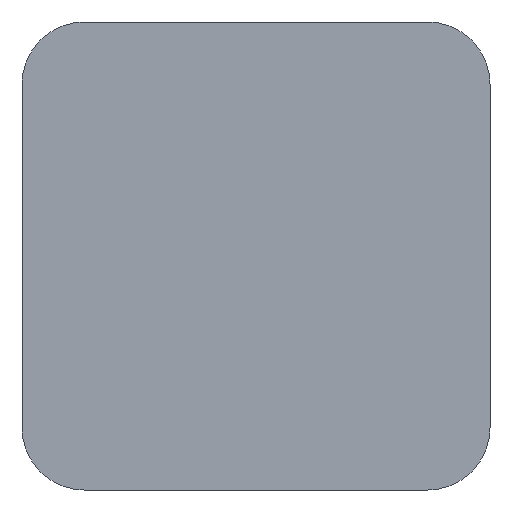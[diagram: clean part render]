
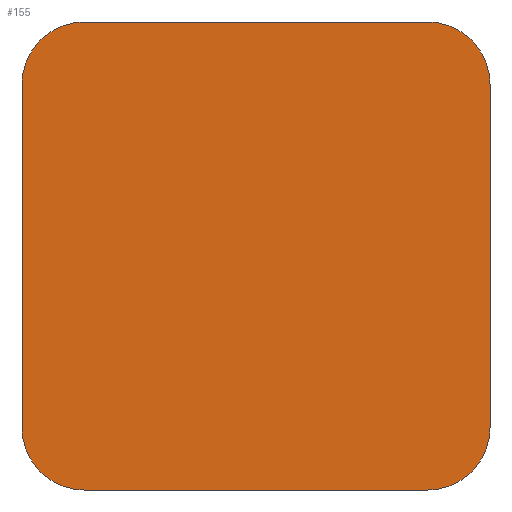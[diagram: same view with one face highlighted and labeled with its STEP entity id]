
A CAD part, front view. The second image highlights one B-rep face of the part: STEP entity #155.
In plain terms, the highlighted planar face has unit normal (0, -1, 0).
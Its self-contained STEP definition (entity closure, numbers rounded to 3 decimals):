
#39 = EDGE_CURVE('',#40,#42,#44,.T.);
#40 = VERTEX_POINT('',#41);
#41 = CARTESIAN_POINT('',(-15.,-14.,-11.));
#42 = VERTEX_POINT('',#43);
#43 = CARTESIAN_POINT('',(-15.,-14.,11.));
#44 = SURFACE_CURVE('',#45,(#49,#61),.PCURVE_S1.);
#45 = LINE('',#46,#47);
#46 = CARTESIAN_POINT('',(-15.,-14.,-15.));
#47 = VECTOR('',#48,1.);
#48 = DIRECTION('',(0.,0.,1.));
#49 = PCURVE('',#50,#55);
#50 = PLANE('',#51);
#51 = AXIS2_PLACEMENT_3D('',#52,#53,#54);
#52 = CARTESIAN_POINT('',(-15.,-14.,-15.));
#53 = DIRECTION('',(1.,0.,-0.));
#54 = DIRECTION('',(0.,0.,1.));
#55 = DEFINITIONAL_REPRESENTATION('',(#56),#60);
#56 = LINE('',#57,#58);
#57 = CARTESIAN_POINT('',(0.,0.));
#58 = VECTOR('',#59,1.);
#59 = DIRECTION('',(1.,0.));
#60 = ( GEOMETRIC_REPRESENTATION_CONTEXT(2) 
PARAMETRIC_REPRESENTATION_CONTEXT() REPRESENTATION_CONTEXT('2D SPACE',''
  ) );
#61 = PCURVE('',#62,#67);
#62 = PLANE('',#63);
#63 = AXIS2_PLACEMENT_3D('',#64,#65,#66);
#64 = CARTESIAN_POINT('',(-15.,-14.,-15.));
#65 = DIRECTION('',(-0.,1.,0.));
#66 = DIRECTION('',(0.,0.,1.));
#67 = DEFINITIONAL_REPRESENTATION('',(#68),#72);
#68 = LINE('',#69,#70);
#69 = CARTESIAN_POINT('',(0.,0.));
#70 = VECTOR('',#71,1.);
#71 = DIRECTION('',(1.,0.));
#72 = ( GEOMETRIC_REPRESENTATION_CONTEXT(2) 
PARAMETRIC_REPRESENTATION_CONTEXT() REPRESENTATION_CONTEXT('2D SPACE',''
  ) );
#90 = CYLINDRICAL_SURFACE('',#91,4.);
#91 = AXIS2_PLACEMENT_3D('',#92,#93,#94);
#92 = CARTESIAN_POINT('',(-11.,-14.,-11.));
#93 = DIRECTION('',(-0.,1.,0.));
#94 = DIRECTION('',(-1.,-0.,0.));
#144 = CYLINDRICAL_SURFACE('',#145,4.);
#145 = AXIS2_PLACEMENT_3D('',#146,#147,#148);
#146 = CARTESIAN_POINT('',(-11.,-14.,11.));
#147 = DIRECTION('',(-0.,1.,0.));
#148 = DIRECTION('',(-1.,-0.,0.));
#155 = ADVANCED_FACE('',(#156),#62,.F.);
#156 = FACE_BOUND('',#157,.F.);
#157 = EDGE_LOOP('',(#158,#188,#214,#215,#239,#267,#300,#328));
#158 = ORIENTED_EDGE('',*,*,#159,.F.);
#159 = EDGE_CURVE('',#160,#162,#164,.T.);
#160 = VERTEX_POINT('',#161);
#161 = CARTESIAN_POINT('',(-11.,-14.,-15.));
#162 = VERTEX_POINT('',#163);
#163 = CARTESIAN_POINT('',(11.,-14.,-15.));
#164 = SURFACE_CURVE('',#165,(#169,#176),.PCURVE_S1.);
#165 = LINE('',#166,#167);
#166 = CARTESIAN_POINT('',(-15.,-14.,-15.));
#167 = VECTOR('',#168,1.);
#168 = DIRECTION('',(1.,0.,-0.));
#169 = PCURVE('',#62,#170);
#170 = DEFINITIONAL_REPRESENTATION('',(#171),#175);
#171 = LINE('',#172,#173);
#172 = CARTESIAN_POINT('',(0.,0.));
#173 = VECTOR('',#174,1.);
#174 = DIRECTION('',(0.,1.));
#175 = ( GEOMETRIC_REPRESENTATION_CONTEXT(2) 
PARAMETRIC_REPRESENTATION_CONTEXT() REPRESENTATION_CONTEXT('2D SPACE',''
  ) );
#176 = PCURVE('',#177,#182);
#177 = PLANE('',#178);
#178 = AXIS2_PLACEMENT_3D('',#179,#180,#181);
#179 = CARTESIAN_POINT('',(-15.,-14.,-15.));
#180 = DIRECTION('',(0.,0.,1.));
#181 = DIRECTION('',(1.,0.,-0.));
#182 = DEFINITIONAL_REPRESENTATION('',(#183),#187);
#183 = LINE('',#184,#185);
#184 = CARTESIAN_POINT('',(0.,0.));
#185 = VECTOR('',#186,1.);
#186 = DIRECTION('',(1.,0.));
#187 = ( GEOMETRIC_REPRESENTATION_CONTEXT(2) 
PARAMETRIC_REPRESENTATION_CONTEXT() REPRESENTATION_CONTEXT('2D SPACE',''
  ) );
#188 = ORIENTED_EDGE('',*,*,#189,.F.);
#189 = EDGE_CURVE('',#40,#160,#190,.T.);
#190 = SURFACE_CURVE('',#191,(#196,#207),.PCURVE_S1.);
#191 = CIRCLE('',#192,4.);
#192 = AXIS2_PLACEMENT_3D('',#193,#194,#195);
#193 = CARTESIAN_POINT('',(-11.,-14.,-11.));
#194 = DIRECTION('',(0.,-1.,0.));
#195 = DIRECTION('',(0.,0.,1.));
#196 = PCURVE('',#62,#197);
#197 = DEFINITIONAL_REPRESENTATION('',(#198),#206);
#198 = ( BOUNDED_CURVE() B_SPLINE_CURVE(2,(#199,#200,#201,#202,#203,#204
,#205),.UNSPECIFIED.,.T.,.F.) B_SPLINE_CURVE_WITH_KNOTS((1,2,2,2,2,1),(
    -2.094,0.,2.094,4.189,6.283,
8.378),.UNSPECIFIED.) CURVE() GEOMETRIC_REPRESENTATION_ITEM() 
RATIONAL_B_SPLINE_CURVE((1.,0.5,1.,0.5,1.,0.5,1.)) REPRESENTATION_ITEM(
  '') );
#199 = CARTESIAN_POINT('',(8.,4.));
#200 = CARTESIAN_POINT('',(8.,-2.928));
#201 = CARTESIAN_POINT('',(2.,0.536));
#202 = CARTESIAN_POINT('',(-4.,4.));
#203 = CARTESIAN_POINT('',(2.,7.464));
#204 = CARTESIAN_POINT('',(8.,10.928));
#205 = CARTESIAN_POINT('',(8.,4.));
#206 = ( GEOMETRIC_REPRESENTATION_CONTEXT(2) 
PARAMETRIC_REPRESENTATION_CONTEXT() REPRESENTATION_CONTEXT('2D SPACE',''
  ) );
#207 = PCURVE('',#90,#208);
#208 = DEFINITIONAL_REPRESENTATION('',(#209),#213);
#209 = LINE('',#210,#211);
#210 = CARTESIAN_POINT('',(1.571,-0.));
#211 = VECTOR('',#212,1.);
#212 = DIRECTION('',(-1.,0.));
#213 = ( GEOMETRIC_REPRESENTATION_CONTEXT(2) 
PARAMETRIC_REPRESENTATION_CONTEXT() REPRESENTATION_CONTEXT('2D SPACE',''
  ) );
#214 = ORIENTED_EDGE('',*,*,#39,.T.);
#215 = ORIENTED_EDGE('',*,*,#216,.T.);
#216 = EDGE_CURVE('',#42,#217,#219,.T.);
#217 = VERTEX_POINT('',#218);
#218 = CARTESIAN_POINT('',(-11.,-14.,15.));
#219 = SURFACE_CURVE('',#220,(#225,#232),.PCURVE_S1.);
#220 = CIRCLE('',#221,4.);
#221 = AXIS2_PLACEMENT_3D('',#222,#223,#224);
#222 = CARTESIAN_POINT('',(-11.,-14.,11.));
#223 = DIRECTION('',(-0.,1.,0.));
#224 = DIRECTION('',(0.,0.,1.));
#225 = PCURVE('',#62,#226);
#226 = DEFINITIONAL_REPRESENTATION('',(#227),#231);
#227 = CIRCLE('',#228,4.);
#228 = AXIS2_PLACEMENT_2D('',#229,#230);
#229 = CARTESIAN_POINT('',(26.,4.));
#230 = DIRECTION('',(1.,0.));
#231 = ( GEOMETRIC_REPRESENTATION_CONTEXT(2) 
PARAMETRIC_REPRESENTATION_CONTEXT() REPRESENTATION_CONTEXT('2D SPACE',''
  ) );
#232 = PCURVE('',#144,#233);
#233 = DEFINITIONAL_REPRESENTATION('',(#234),#238);
#234 = LINE('',#235,#236);
#235 = CARTESIAN_POINT('',(-4.712,0.));
#236 = VECTOR('',#237,1.);
#237 = DIRECTION('',(1.,0.));
#238 = ( GEOMETRIC_REPRESENTATION_CONTEXT(2) 
PARAMETRIC_REPRESENTATION_CONTEXT() REPRESENTATION_CONTEXT('2D SPACE',''
  ) );
#239 = ORIENTED_EDGE('',*,*,#240,.T.);
#240 = EDGE_CURVE('',#217,#241,#243,.T.);
#241 = VERTEX_POINT('',#242);
#242 = CARTESIAN_POINT('',(11.,-14.,15.));
#243 = SURFACE_CURVE('',#244,(#248,#255),.PCURVE_S1.);
#244 = LINE('',#245,#246);
#245 = CARTESIAN_POINT('',(-15.,-14.,15.));
#246 = VECTOR('',#247,1.);
#247 = DIRECTION('',(1.,0.,-0.));
#248 = PCURVE('',#62,#249);
#249 = DEFINITIONAL_REPRESENTATION('',(#250),#254);
#250 = LINE('',#251,#252);
#251 = CARTESIAN_POINT('',(30.,0.));
#252 = VECTOR('',#253,1.);
#253 = DIRECTION('',(0.,1.));
#254 = ( GEOMETRIC_REPRESENTATION_CONTEXT(2) 
PARAMETRIC_REPRESENTATION_CONTEXT() REPRESENTATION_CONTEXT('2D SPACE',''
  ) );
#255 = PCURVE('',#256,#261);
#256 = PLANE('',#257);
#257 = AXIS2_PLACEMENT_3D('',#258,#259,#260);
#258 = CARTESIAN_POINT('',(-15.,-14.,15.));
#259 = DIRECTION('',(0.,0.,1.));
#260 = DIRECTION('',(1.,0.,-0.));
#261 = DEFINITIONAL_REPRESENTATION('',(#262),#266);
#262 = LINE('',#263,#264);
#263 = CARTESIAN_POINT('',(0.,0.));
#264 = VECTOR('',#265,1.);
#265 = DIRECTION('',(1.,0.));
#266 = ( GEOMETRIC_REPRESENTATION_CONTEXT(2) 
PARAMETRIC_REPRESENTATION_CONTEXT() REPRESENTATION_CONTEXT('2D SPACE',''
  ) );
#267 = ORIENTED_EDGE('',*,*,#268,.F.);
#268 = EDGE_CURVE('',#269,#241,#271,.T.);
#269 = VERTEX_POINT('',#270);
#270 = CARTESIAN_POINT('',(15.,-14.,11.));
#271 = SURFACE_CURVE('',#272,(#277,#288),.PCURVE_S1.);
#272 = CIRCLE('',#273,4.);
#273 = AXIS2_PLACEMENT_3D('',#274,#275,#276);
#274 = CARTESIAN_POINT('',(11.,-14.,11.));
#275 = DIRECTION('',(0.,-1.,0.));
#276 = DIRECTION('',(0.,0.,1.));
#277 = PCURVE('',#62,#278);
#278 = DEFINITIONAL_REPRESENTATION('',(#279),#287);
#279 = ( BOUNDED_CURVE() B_SPLINE_CURVE(2,(#280,#281,#282,#283,#284,#285
,#286),.UNSPECIFIED.,.T.,.F.) B_SPLINE_CURVE_WITH_KNOTS((1,2,2,2,2,1),(
    -2.094,0.,2.094,4.189,6.283,
8.378),.UNSPECIFIED.) CURVE() GEOMETRIC_REPRESENTATION_ITEM() 
RATIONAL_B_SPLINE_CURVE((1.,0.5,1.,0.5,1.,0.5,1.)) REPRESENTATION_ITEM(
  '') );
#280 = CARTESIAN_POINT('',(30.,26.));
#281 = CARTESIAN_POINT('',(30.,19.072));
#282 = CARTESIAN_POINT('',(24.,22.536));
#283 = CARTESIAN_POINT('',(18.,26.));
#284 = CARTESIAN_POINT('',(24.,29.464));
#285 = CARTESIAN_POINT('',(30.,32.928));
#286 = CARTESIAN_POINT('',(30.,26.));
#287 = ( GEOMETRIC_REPRESENTATION_CONTEXT(2) 
PARAMETRIC_REPRESENTATION_CONTEXT() REPRESENTATION_CONTEXT('2D SPACE',''
  ) );
#288 = PCURVE('',#289,#294);
#289 = CYLINDRICAL_SURFACE('',#290,4.);
#290 = AXIS2_PLACEMENT_3D('',#291,#292,#293);
#291 = CARTESIAN_POINT('',(11.,-14.,11.));
#292 = DIRECTION('',(-0.,1.,0.));
#293 = DIRECTION('',(1.,0.,-0.));
#294 = DEFINITIONAL_REPRESENTATION('',(#295),#299);
#295 = LINE('',#296,#297);
#296 = CARTESIAN_POINT('',(4.712,-0.));
#297 = VECTOR('',#298,1.);
#298 = DIRECTION('',(-1.,0.));
#299 = ( GEOMETRIC_REPRESENTATION_CONTEXT(2) 
PARAMETRIC_REPRESENTATION_CONTEXT() REPRESENTATION_CONTEXT('2D SPACE',''
  ) );
#300 = ORIENTED_EDGE('',*,*,#301,.F.);
#301 = EDGE_CURVE('',#302,#269,#304,.T.);
#302 = VERTEX_POINT('',#303);
#303 = CARTESIAN_POINT('',(15.,-14.,-11.));
#304 = SURFACE_CURVE('',#305,(#309,#316),.PCURVE_S1.);
#305 = LINE('',#306,#307);
#306 = CARTESIAN_POINT('',(15.,-14.,-15.));
#307 = VECTOR('',#308,1.);
#308 = DIRECTION('',(0.,0.,1.));
#309 = PCURVE('',#62,#310);
#310 = DEFINITIONAL_REPRESENTATION('',(#311),#315);
#311 = LINE('',#312,#313);
#312 = CARTESIAN_POINT('',(0.,30.));
#313 = VECTOR('',#314,1.);
#314 = DIRECTION('',(1.,0.));
#315 = ( GEOMETRIC_REPRESENTATION_CONTEXT(2) 
PARAMETRIC_REPRESENTATION_CONTEXT() REPRESENTATION_CONTEXT('2D SPACE',''
  ) );
#316 = PCURVE('',#317,#322);
#317 = PLANE('',#318);
#318 = AXIS2_PLACEMENT_3D('',#319,#320,#321);
#319 = CARTESIAN_POINT('',(15.,-14.,-15.));
#320 = DIRECTION('',(1.,0.,-0.));
#321 = DIRECTION('',(0.,0.,1.));
#322 = DEFINITIONAL_REPRESENTATION('',(#323),#327);
#323 = LINE('',#324,#325);
#324 = CARTESIAN_POINT('',(0.,0.));
#325 = VECTOR('',#326,1.);
#326 = DIRECTION('',(1.,0.));
#327 = ( GEOMETRIC_REPRESENTATION_CONTEXT(2) 
PARAMETRIC_REPRESENTATION_CONTEXT() REPRESENTATION_CONTEXT('2D SPACE',''
  ) );
#328 = ORIENTED_EDGE('',*,*,#329,.T.);
#329 = EDGE_CURVE('',#302,#162,#330,.T.);
#330 = SURFACE_CURVE('',#331,(#336,#343),.PCURVE_S1.);
#331 = CIRCLE('',#332,4.);
#332 = AXIS2_PLACEMENT_3D('',#333,#334,#335);
#333 = CARTESIAN_POINT('',(11.,-14.,-11.));
#334 = DIRECTION('',(-0.,1.,0.));
#335 = DIRECTION('',(0.,0.,1.));
#336 = PCURVE('',#62,#337);
#337 = DEFINITIONAL_REPRESENTATION('',(#338),#342);
#338 = CIRCLE('',#339,4.);
#339 = AXIS2_PLACEMENT_2D('',#340,#341);
#340 = CARTESIAN_POINT('',(4.,26.));
#341 = DIRECTION('',(1.,0.));
#342 = ( GEOMETRIC_REPRESENTATION_CONTEXT(2) 
PARAMETRIC_REPRESENTATION_CONTEXT() REPRESENTATION_CONTEXT('2D SPACE',''
  ) );
#343 = PCURVE('',#344,#349);
#344 = CYLINDRICAL_SURFACE('',#345,4.);
#345 = AXIS2_PLACEMENT_3D('',#346,#347,#348);
#346 = CARTESIAN_POINT('',(11.,-14.,-11.));
#347 = DIRECTION('',(-0.,1.,0.));
#348 = DIRECTION('',(1.,0.,-0.));
#349 = DEFINITIONAL_REPRESENTATION('',(#350),#354);
#350 = LINE('',#351,#352);
#351 = CARTESIAN_POINT('',(-1.571,0.));
#352 = VECTOR('',#353,1.);
#353 = DIRECTION('',(1.,0.));
#354 = ( GEOMETRIC_REPRESENTATION_CONTEXT(2) 
PARAMETRIC_REPRESENTATION_CONTEXT() REPRESENTATION_CONTEXT('2D SPACE',''
  ) );
